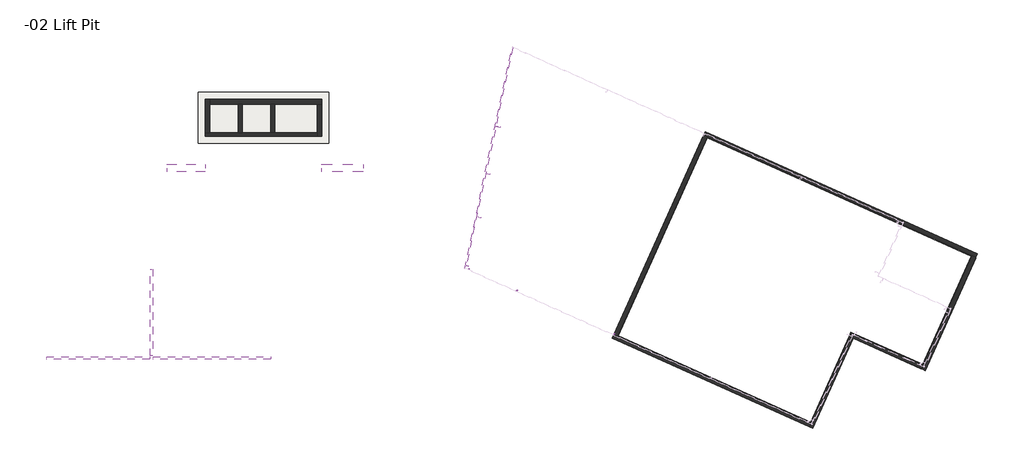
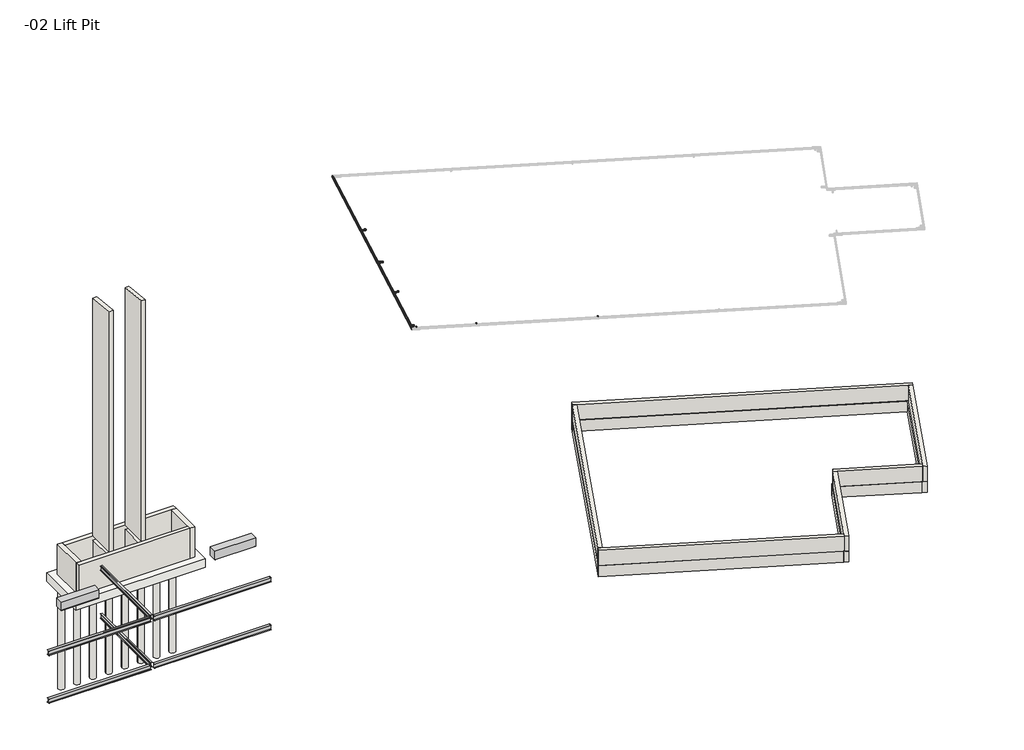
# One storey, part 1 of 3: 18 walls, 16 beams, 9 slabs.
"""IFC4 building model written with IfcOpenShell, lengths in millimetres."""

from ifc_helpers import new_model, si_unit, point, frame, frame_2d, origin, place, context, project, spatial, polyline, circle_curve, ellipse_curve, trimmed, segment, composite_curve, outline, extrude, faceted_brep, transform, mapped, element, save
from ifc_brep_helpers import plane_surface, cylinder_surface, revolved_surface, advanced_brep
from components import hss_hollow_structural_section_hss3x2x1_8_139d3190, hss_hollow_structural_section_hss3x2x1_8_24952963, hss_hollow_structural_section_hss3x2x1_8_be35bb29, hss_hollow_structural_section_hss3x2x1_8_7ccaf686, hss_hollow_structural_section_hss3x2x1_8_c5a4428d, w_shapes_w12x26_85c0d87e, w_shapes_w12x26_268029d0, w_shapes_w12x26_8135fd55

model = new_model("IFC4")

# Units and contexts
model_context = context("Model", 3, world=origin())
ifc_project = project(units=[si_unit("LENGTHUNIT", "METRE", prefix="MILLI")], contexts=[model_context])

# Site, building, storey
site = spatial("IfcSite", under=ifc_project)
building = spatial("IfcBuilding", under=site)
storey = spatial("IfcBuildingStorey", under=building, Name="-02 Lift Pit", Elevation=-2133.6)

# Beams
placement = place(None, origin())
hss_hollow_structural_section_hss3x2x1_8_shape = hss_hollow_structural_section_hss3x2x1_8_139d3190(model_context)
element("IfcBeam", 1, ObjectType="HSS-Hollow Structural Section : HSS3X2X1/8", at=placement, inside=storey, context=model_context, shape_type="MappedRepresentation", body=[
    mapped(hss_hollow_structural_section_hss3x2x1_8_shape, transform((28553.1839899, -10746.3611508, 16083.2409028), x_axis=(0.9777434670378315, -0.20951645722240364, 0.010980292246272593), y_axis=(0.20870511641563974, 0.9766389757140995, 0.05117113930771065), z_axis=(-0.021444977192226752, -0.04774060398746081, 0.9986295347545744))),
])
element("IfcBeam", 2, ObjectType="HSS-Hollow Structural Section : HSS3X2X1/8", at=placement, inside=storey, context=model_context, shape_type="MappedRepresentation", body=[
    mapped(hss_hollow_structural_section_hss3x2x1_8_shape, transform((29163.4667864, -7890.5329109, 16232.8724333), x_axis=(0.9777434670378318, -0.20951645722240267, 0.010980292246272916), y_axis=(0.20870511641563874, 0.9766389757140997, 0.05117113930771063), z_axis=(-0.021444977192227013, -0.04774060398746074, 0.9986295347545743))),
])
element("IfcBeam", 3, ObjectType="HSS-Hollow Structural Section : HSS3X2X1/8", at=placement, inside=storey, context=model_context, shape_type="MappedRepresentation", body=[
    mapped(hss_hollow_structural_section_hss3x2x1_8_shape, transform((29824.9886577, -4794.9305897, 16395.0669613), x_axis=(0.9777434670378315, -0.2095164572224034, 0.010980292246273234), y_axis=(0.20870511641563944, 0.9766389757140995, 0.05117113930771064), z_axis=(-0.021444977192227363, -0.04774060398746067, 0.9986295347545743))),
])
hss_hollow_structural_section_hss3x2x1_8_2_shape = hss_hollow_structural_section_hss3x2x1_8_24952963(model_context)
element("IfcBeam", 4, ObjectType="HSS-Hollow Structural Section : HSS3X2X1/8", at=placement, inside=storey, context=model_context, shape_type="MappedRepresentation", body=[
    mapped(hss_hollow_structural_section_hss3x2x1_8_2_shape, transform((31113.9933399, -15523.9075304, 15909.8368069), x_axis=(-0.40919454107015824, -0.9109449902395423, -0.05233595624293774), y_axis=(0.9121951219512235, -0.409756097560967, 0.0), z_axis=(-0.021444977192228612, -0.0477406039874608, 0.9986295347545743))),
])
hss_hollow_structural_section_hss3x2x1_8_3_shape = hss_hollow_structural_section_hss3x2x1_8_be35bb29(model_context)
element("IfcBeam", 5, ObjectType="HSS-Hollow Structural Section : HSS3X2X1/8", at=placement, inside=storey, context=model_context, shape_type="MappedRepresentation", body=[
    mapped(hss_hollow_structural_section_hss3x2x1_8_3_shape, transform((37509.7248478, -18394.5052449, 15909.9492086), x_axis=(-0.409194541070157, -0.910944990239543, -0.05233595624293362), y_axis=(0.912195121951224, -0.4097560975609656, 0.0), z_axis=(-0.021444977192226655, -0.04774060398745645, 0.9986295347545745))),
])
hss_hollow_structural_section_hss3x2x1_8_4_shape = hss_hollow_structural_section_hss3x2x1_8_7ccaf686(model_context)
element("IfcBeam", 6, ObjectType="HSS-Hollow Structural Section : HSS3X2X1/8", at=placement, inside=storey, context=model_context, shape_type="MappedRepresentation", body=[
    mapped(hss_hollow_structural_section_hss3x2x1_8_4_shape, transform((27860.6590059, -13959.5725396, 15914.7581682), x_axis=(-0.9777434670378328, 0.209516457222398, -0.010980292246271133), y_axis=(-0.20870511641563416, -0.9766389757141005, -0.05117113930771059), z_axis=(-0.021444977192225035, -0.047740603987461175, 0.9986295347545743))),
])
hss_hollow_structural_section_hss3x2x1_8_5_shape = hss_hollow_structural_section_hss3x2x1_8_c5a4428d(model_context)
element("IfcBeam", 7, ObjectType="HSS-Hollow Structural Section : HSS3X2X1/8", at=placement, inside=storey, context=model_context, shape_type="MappedRepresentation", body=[
    mapped(hss_hollow_structural_section_hss3x2x1_8_5_shape, transform((27952.9662678, -14104.0086143, 15909.8354835), x_axis=(-0.40919454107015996, -0.9109449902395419, -0.05233595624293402), y_axis=(0.9121951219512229, -0.40975609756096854, 0.0), z_axis=(-0.02144497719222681, -0.0477406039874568, 0.9986295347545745))),
])
element("IfcBeam", 8, ObjectType="HSS-Hollow Structural Section : HSS5X2X1/8", at=placement, inside=storey, context=model_context, shape_type="AdvancedBrep", body=[
    advanced_brep(
    [(30775.5166497, 477.596911, 16705.6903584), (30771.4031294, 486.233955, 16700.1140396), (27647.3085375, -14133.0173345, 15934.13627), (27653.9377637, -14129.882092, 15940.3293994), (30803.5876534, 422.2762939, 16703.6485024), (27698.6644754, -14107.262053, 15942.3712554), (30807.9539155, 414.2019015, 16697.455373), (27705.5464435, -14103.5641587, 15936.7949366), (30810.4246857, 419.7023065, 16582.3988703), (27708.0172137, -14098.0637537, 15821.7384339), (30806.3111655, 428.3393506, 16576.8225515), (27701.3879876, -14101.1989963, 15815.5453044), (30778.2401618, 483.6599677, 16578.8644074), (27656.6612758, -14123.8190353, 15813.5034485), (30773.8738996, 491.73436, 16585.0575369), (27649.7793077, -14127.5169295, 15819.0797673), (30775.5798351, 477.7375739, 16702.7479963), (30803.6508388, 422.4169568, 16700.7061404), (27698.7276609, -14107.1213901, 15939.4288933), (27654.0009491, -14129.7414291, 15937.3870374), (30773.523075, 482.0560959, 16699.9598369), (27650.6863361, -14131.3090503, 15934.2904726), (30775.9938452, 487.5565009, 16584.9033342), (27653.1571062, -14125.8086453, 15819.23397), (30778.1769763, 483.5193048, 16581.8067695), (27656.5980903, -14123.9596982, 15816.4458106), (30806.24798, 428.1986877, 16579.7649136), (27701.3248021, -14101.3396592, 15818.4876665), (30808.3047401, 423.8801657, 16582.553073), (27704.6394151, -14099.7720379, 15821.5842312), (30805.8339699, 418.3797606, 16697.6095756), (27702.168645, -14105.2724429, 15936.6407339)],
    [
        (0, 1, ellipse_curve(frame((30775.6430206, 477.8782368, 16699.8056342), z_axis=(-0.89162974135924, -0.4509318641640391, -0.04070452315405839), x_axis=(-0.45225713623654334, 0.8912807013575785, 0.0328967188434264)), 9.3749569, 5.8928)),
        (1, 2),
        (2, 3, ellipse_curve(frame((27654.0641346, -14129.6007661, 15934.4446753), z_axis=(-0.452257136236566, 0.8912807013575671, 0.03289671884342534), x_axis=(0.8916297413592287, 0.45093186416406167, 0.04070452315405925)), 7.5766843, 5.8928)),
        (3, 0),
        (4, 0),
        (3, 5),
        (5, 4),
        (6, 4, ellipse_curve(frame((30803.7140243, 422.5576197, 16697.7637783), z_axis=(-0.89162974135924, -0.4509318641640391, -0.04070452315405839), x_axis=(-0.45225713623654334, 0.8912807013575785, 0.0328967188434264)), 9.3749569, 5.8928)),
        (5, 7, ellipse_curve(frame((27698.7908464, -14106.9807271, 15936.4865312), z_axis=(-0.452257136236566, 0.8912807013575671, 0.03289671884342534), x_axis=(0.8916297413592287, 0.45093186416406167, 0.04070452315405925)), 7.5766843, 5.8928)),
        (7, 6),
        (8, 6),
        (7, 9),
        (9, 8),
        (10, 8, ellipse_curve(frame((30806.1847945, 428.0580248, 16582.7072756), z_axis=(-0.89162974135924, -0.4509318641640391, -0.04070452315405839), x_axis=(-0.45225713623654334, 0.8912807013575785, 0.0328967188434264)), 9.3749569, 5.8928)),
        (9, 11, ellipse_curve(frame((27701.2616166, -14101.4803221, 15821.4300286), z_axis=(-0.452257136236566, 0.8912807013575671, 0.03289671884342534), x_axis=(0.8916297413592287, 0.45093186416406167, 0.04070452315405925)), 7.5766843, 5.8928)),
        (11, 10),
        (12, 10),
        (11, 13),
        (13, 12),
        (14, 12, ellipse_curve(frame((30778.1137908, 483.3786418, 16584.7491316), z_axis=(-0.89162974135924, -0.4509318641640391, -0.04070452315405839), x_axis=(-0.45225713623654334, 0.8912807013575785, 0.0328967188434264)), 9.3749569, 5.8928)),
        (13, 15, ellipse_curve(frame((27656.5349048, -14124.1003611, 15819.3881726), z_axis=(-0.452257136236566, 0.8912807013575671, 0.03289671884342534), x_axis=(0.8916297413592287, 0.45093186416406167, 0.04070452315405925)), 7.5766843, 5.8928)),
        (15, 14),
        (1, 14),
        (15, 2),
        (16, 17),
        (17, 18),
        (18, 19),
        (19, 16),
        (20, 16, ellipse_curve(frame((30775.6430206, 477.8782368, 16699.8056342), z_axis=(0.89162974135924, 0.4509318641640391, 0.04070452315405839), x_axis=(0.45225713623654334, -0.8912807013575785, -0.0328967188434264)), 4.6874785, 2.9464)),
        (19, 21, ellipse_curve(frame((27654.0641346, -14129.6007661, 15934.4446753), z_axis=(0.452257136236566, -0.8912807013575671, -0.03289671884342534), x_axis=(-0.8916297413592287, -0.45093186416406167, -0.04070452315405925)), 3.7883422, 2.9464)),
        (21, 20),
        (22, 20),
        (21, 23),
        (23, 22),
        (24, 22, ellipse_curve(frame((30778.1137908, 483.3786418, 16584.7491316), z_axis=(0.89162974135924, 0.4509318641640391, 0.04070452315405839), x_axis=(0.45225713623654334, -0.8912807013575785, -0.0328967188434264)), 4.6874785, 2.9464)),
        (23, 25, ellipse_curve(frame((27656.5349048, -14124.1003611, 15819.3881726), z_axis=(0.452257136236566, -0.8912807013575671, -0.03289671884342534), x_axis=(-0.8916297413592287, -0.45093186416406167, -0.04070452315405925)), 3.7883422, 2.9464)),
        (25, 24),
        (26, 24),
        (25, 27),
        (27, 26),
        (28, 26, ellipse_curve(frame((30806.1847945, 428.0580248, 16582.7072756), z_axis=(0.89162974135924, 0.4509318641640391, 0.04070452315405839), x_axis=(0.45225713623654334, -0.8912807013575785, -0.0328967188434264)), 4.6874785, 2.9464)),
        (27, 29, ellipse_curve(frame((27701.2616166, -14101.4803221, 15821.4300286), z_axis=(0.452257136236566, -0.8912807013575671, -0.03289671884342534), x_axis=(-0.8916297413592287, -0.45093186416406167, -0.04070452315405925)), 3.7883422, 2.9464)),
        (29, 28),
        (30, 28),
        (29, 31),
        (31, 30),
        (17, 30, ellipse_curve(frame((30803.7140243, 422.5576197, 16697.7637783), z_axis=(0.89162974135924, 0.4509318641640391, 0.04070452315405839), x_axis=(0.45225713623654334, -0.8912807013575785, -0.0328967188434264)), 4.6874785, 2.9464)),
        (31, 18, ellipse_curve(frame((27698.7908464, -14106.9807271, 15936.4865312), z_axis=(0.452257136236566, -0.8912807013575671, -0.03289671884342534), x_axis=(-0.8916297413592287, -0.45093186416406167, -0.04070452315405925)), 3.7883422, 2.9464)),
    ],
    [
        cylinder_surface(frame((30770.6054851, 454.3050077, 16698.5705115), z_axis=(0.2087051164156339, 0.9766389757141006, 0.05117113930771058), x_axis=(0.9777434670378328, -0.20951645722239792, 0.010980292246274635)), 5.8928),
        plane_surface(frame((30770.4791142, 454.0236819, 16704.4552356), z_axis=(-0.02144497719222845, -0.04774060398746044, 0.9986295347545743), x_axis=(-0.2087051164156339, -0.9766389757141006, -0.05117113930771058))),
        cylinder_surface(frame((30808.7515598, 446.1308488, 16698.998901), z_axis=(0.2087051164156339, 0.9766389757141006, 0.05117113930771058), x_axis=(0.9777434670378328, -0.20951645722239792, 0.010980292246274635)), 5.8928),
        plane_surface(frame((30814.5132065, 444.8962102, 16699.0636057), z_axis=(0.9777434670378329, -0.20951645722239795, 0.010980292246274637), x_axis=(-0.2087051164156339, -0.9766389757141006, -0.05117113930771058))),
        cylinder_surface(frame((30811.22233, 451.6312539, 16583.9423984), z_axis=(0.2087051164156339, 0.9766389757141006, 0.05117113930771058), x_axis=(0.9777434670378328, -0.20951645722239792, 0.010980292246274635)), 5.8928),
        plane_surface(frame((30811.348701, 451.9125797, 16578.0576742), z_axis=(0.02144497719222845, 0.04774060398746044, -0.9986295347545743), x_axis=(-0.2087051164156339, -0.9766389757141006, -0.05117113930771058))),
        cylinder_surface(frame((30773.0762553, 459.8054127, 16583.5140088), z_axis=(0.2087051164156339, 0.9766389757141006, 0.05117113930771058), x_axis=(0.9777434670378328, -0.20951645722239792, 0.010980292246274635)), 5.8928),
        plane_surface(frame((30767.3146086, 461.0400513, 16583.4493042), z_axis=(-0.9777434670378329, 0.20951645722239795, -0.010980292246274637), x_axis=(-0.2087051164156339, -0.9766389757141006, -0.05117113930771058))),
        plane_surface(frame((30808.6883744, 445.9901859, 16701.9412631), z_axis=(0.02144497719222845, 0.04774060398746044, -0.9986295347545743), x_axis=(-0.2087051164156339, -0.9766389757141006, -0.05117113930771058))),
        revolved_surface(polyline([(27656.44798275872, -14132.54368889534, 15934.355177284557), (30779.284721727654, 480.82145733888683, 16700.024541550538)]), (30770.6054851, 454.3050077, 16698.5705115), (-0.2087051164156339, -0.9766389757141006, -0.05117113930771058)),
        plane_surface(frame((30767.7246618, 454.922327, 16698.5381592), z_axis=(0.9777434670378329, -0.20951645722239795, 0.010980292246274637), x_axis=(-0.2087051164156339, -0.9766389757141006, -0.05117113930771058))),
        revolved_surface(polyline([(27658.91875295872, -14127.04328389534, 15819.29867458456), (30781.75549192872, 486.3218623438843, 16584.968038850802)]), (30773.0762553, 459.8054127, 16583.5140088), (-0.2087051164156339, -0.9766389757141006, -0.05117113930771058)),
        plane_surface(frame((30773.1394408, 459.9460756, 16580.5716468), z_axis=(-0.02144497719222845, -0.04774060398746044, 0.9986295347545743), x_axis=(-0.2087051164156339, -0.9766389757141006, -0.05117113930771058))),
        revolved_surface(polyline([(27703.64546471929, -14104.423244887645, 15821.340530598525), (30809.826495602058, 431.00124534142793, 16582.92618300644)]), (30811.22233, 451.6312539, 16583.9423984), (-0.2087051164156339, -0.9766389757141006, -0.05117113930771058)),
        plane_surface(frame((30814.1031534, 451.0139346, 16583.9747507), z_axis=(-0.9777434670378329, 0.20951645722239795, -0.010980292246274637), x_axis=(-0.2087051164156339, -0.9766389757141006, -0.05117113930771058))),
        revolved_surface(polyline([(27701.174694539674, -14109.923649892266, 15936.397033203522), (30807.355725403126, 425.5008402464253, 16697.9826856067)]), (30808.7515598, 446.1308488, 16698.998901), (-0.2087051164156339, -0.9766389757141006, -0.05117113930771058)),
        plane_surface(frame((27703.7859653, -14107.4833186, 16018.7752312), z_axis=(0.4522571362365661, -0.8912807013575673, -0.03289671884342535), x_axis=(0.8918875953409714, 0.45194939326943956, 0.016681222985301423))),
        plane_surface(frame((30806.1934373, 410.2827416, 16779.4356677), z_axis=(0.8916297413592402, 0.4509318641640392, 0.0407045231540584), x_axis=(0.4527652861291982, -0.8880191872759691, -0.08015933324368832))),
    ],
    [
        (0, [[1, 2, 3, 4]]),
        (1, [[5, -4, 6, 7]]),
        (2, [[8, -7, 9, 10]]),
        (3, [[11, -10, 12, 13]]),
        (4, [[14, -13, 15, 16]]),
        (5, [[17, -16, 18, 19]]),
        (6, [[20, -19, 21, 22]]),
        (7, [[23, -22, 24, -2]]),
        (8, [[25, 26, 27, 28]]),
        (9, [[29, -28, 30, 31]]),
        (10, [[32, -31, 33, 34]]),
        (11, [[35, -34, 36, 37]]),
        (12, [[38, -37, 39, 40]]),
        (13, [[41, -40, 42, 43]]),
        (14, [[44, -43, 45, 46]]),
        (15, [[47, -46, 48, -26]]),
        (16, [[-24, -21, -18, -15, -12, -9, -6, -3], [-48, -45, -42, -39, -36, -33, -30, -27]]),
        (17, [[-1, -5, -8, -11, -14, -17, -20, -23], [-25, -29, -32, -35, -38, -41, -44, -47]]),
    ],
),
])
element("IfcBeam", 9, ObjectType="Ring Beam : 12 x 24", at=placement, inside=storey, context=model_context, shape_type="SweptSolid", body=[
    extrude(outline(polyline([(-7759.7, -304.8), (-7251.7, -304.8), (-7251.7, -889.0), (-7277.1, -914.4), (-7734.3, -914.4), (-7759.7, -889.0), (-7759.7, -304.8)])), frame((18249.9, 0.0, 0.0), z_axis=(1.0, 0.0, 0.0), x_axis=(0.0, 1.0, 0.0)), (0.0, 0.0, 1.0), 2717.8),
])
element("IfcBeam", 10, ObjectType="Ring Beam : 12 x 24", at=placement, inside=storey, context=model_context, shape_type="SweptSolid", body=[
    extrude(outline(polyline([(-7759.7, -889.0), (-7759.7, -304.8), (-7251.7, -304.8), (-7251.7, -889.0), (-7277.1, -914.4), (-7734.3, -914.4), (-7759.7, -889.0)])), frame((8051.8, 0.0, 0.0), z_axis=(1.0, 0.0, 0.0), x_axis=(0.0, 1.0, 0.0)), (0.0, 0.0, 1.0), 2501.9),
])
w_shapes_w12x26_shape = w_shapes_w12x26_85c0d87e(model_context)
element("IfcBeam", 11, ObjectType="W Shapes : W12X26", at=placement, inside=storey, context=model_context, shape_type="MappedRepresentation", body=[
    mapped(w_shapes_w12x26_shape, transform((11004.55, -20002.5, 2994.66), x_axis=(-1.0, 0.0, 0.0), y_axis=(0.0, -1.0, 0.0), z_axis=(0.0, 0.0, 1.0))),
])
element("IfcBeam", 12, ObjectType="W Shapes : W12X26", at=placement, inside=storey, context=model_context, shape_type="MappedRepresentation", body=[
    mapped(w_shapes_w12x26_shape, transform((11004.55, -20002.5, 6347.46), x_axis=(-1.0, 0.0, 0.0), y_axis=(0.0, -1.0, 0.0), z_axis=(0.0, 0.0, 1.0))),
])
w_shapes_w12x26_2_shape = w_shapes_w12x26_268029d0(model_context)
element("IfcBeam", 13, ObjectType="W Shapes : W12X26", at=placement, inside=storey, context=model_context, shape_type="MappedRepresentation", body=[
    mapped(w_shapes_w12x26_2_shape, transform((7010.4, -16998.95, 2994.66), x_axis=(0.0, 1.0, 0.0), y_axis=(-1.0, 0.0, 0.0), z_axis=(0.0, 0.0, 1.0))),
])
element("IfcBeam", 14, ObjectType="W Shapes : W12X26", at=placement, inside=storey, context=model_context, shape_type="MappedRepresentation", body=[
    mapped(w_shapes_w12x26_2_shape, transform((7010.4, -16998.95, 6347.46), x_axis=(0.0, 1.0, 0.0), y_axis=(-1.0, 0.0, 0.0), z_axis=(0.0, 0.0, 1.0))),
])
w_shapes_w12x26_3_shape = w_shapes_w12x26_8135fd55(model_context)
element("IfcBeam", 15, ObjectType="W Shapes : W12X26", at=placement, inside=storey, context=model_context, shape_type="MappedRepresentation", body=[
    mapped(w_shapes_w12x26_3_shape, transform((3505.2, -20002.5, 2994.66), x_axis=(-1.0, 0.0, 0.0), y_axis=(0.0, -1.0, 0.0), z_axis=(0.0, 0.0, 1.0))),
])
element("IfcBeam", 16, ObjectType="W Shapes : W12X26", at=placement, inside=storey, context=model_context, shape_type="MappedRepresentation", body=[
    mapped(w_shapes_w12x26_3_shape, transform((3505.2, -20002.5, 6347.46), x_axis=(-1.0, 0.0, 0.0), y_axis=(0.0, -1.0, 0.0), z_axis=(0.0, 0.0, 1.0))),
])

# Slabs
element("IfcSlab", 17, ObjectType="24\" Foundation Slab", at=placement, inside=storey, context=model_context, shape_type="SweptSolid", body=[
    extrude(outline(polyline([(10096.5, -5880.1), (10096.5, -2527.3), (18707.1, -2527.3), (18707.1, -5880.1), (10096.5, -5880.1)])), frame((0.0, 0.0, -2743.2), z_axis=(0.0, 0.0, 1.0), x_axis=(1.0, 0.0, 0.0)), (0.0, 0.0, 1.0), 609.6),
])
element("IfcSlab", 18, ObjectType="Round In Situ Concrete Pile : 16\" Diameter 24'", at=placement, inside=storey, context=model_context, shape_type="SweptSolid", body=[
    extrude(outline(composite_curve([segment(trimmed(circle_curve(frame_2d((10706.1, -3136.9)), 203.2), [point((10502.9, -3136.9))], [point((10909.3, -3136.9))], False, "CARTESIAN"), True, "CONTINUOUS"), segment(trimmed(circle_curve(frame_2d((10706.1, -3136.9)), 203.2), [point((10909.3, -3136.9))], [point((10502.9, -3136.9))], False, "CARTESIAN"), True, "CONTINUOUS")], self_intersect=False)), frame((0.0, 0.0, -10058.4), z_axis=(0.0, 0.0, 1.0), x_axis=(1.0, 0.0, 0.0)), (0.0, 0.0, 1.0), 7315.2),
])
element("IfcSlab", 19, ObjectType="Round In Situ Concrete Pile : 16\" Diameter 24'", at=placement, inside=storey, context=model_context, shape_type="SweptSolid", body=[
    extrude(outline(composite_curve([segment(trimmed(circle_curve(frame_2d((11762.0142857, -3136.9)), 203.2), [point((11558.8142857, -3136.9))], [point((11965.2142857, -3136.9))], False, "CARTESIAN"), True, "CONTINUOUS"), segment(trimmed(circle_curve(frame_2d((11762.0142857, -3136.9)), 203.2), [point((11965.2142857, -3136.9))], [point((11558.8142857, -3136.9))], False, "CARTESIAN"), True, "CONTINUOUS")], self_intersect=False)), frame((0.0, 0.0, -10058.4), z_axis=(0.0, 0.0, 1.0), x_axis=(1.0, 0.0, 0.0)), (0.0, 0.0, 1.0), 7315.2),
])
element("IfcSlab", 20, ObjectType="Round In Situ Concrete Pile : 16\" Diameter 24'", at=placement, inside=storey, context=model_context, shape_type="SweptSolid", body=[
    extrude(outline(composite_curve([segment(trimmed(circle_curve(frame_2d((12817.9285714, -3136.9)), 203.2), [point((12614.7285714, -3136.9))], [point((13021.1285714, -3136.9))], False, "CARTESIAN"), True, "CONTINUOUS"), segment(trimmed(circle_curve(frame_2d((12817.9285714, -3136.9)), 203.2), [point((13021.1285714, -3136.9))], [point((12614.7285714, -3136.9))], False, "CARTESIAN"), True, "CONTINUOUS")], self_intersect=False)), frame((0.0, 0.0, -10058.4), z_axis=(0.0, 0.0, 1.0), x_axis=(1.0, 0.0, 0.0)), (0.0, 0.0, 1.0), 7315.2),
])
element("IfcSlab", 21, ObjectType="Round In Situ Concrete Pile : 16\" Diameter 24'", at=placement, inside=storey, context=model_context, shape_type="SweptSolid", body=[
    extrude(outline(composite_curve([segment(trimmed(circle_curve(frame_2d((13873.8428571, -3136.9)), 203.2), [point((13670.6428571, -3136.9))], [point((14077.0428571, -3136.9))], False, "CARTESIAN"), True, "CONTINUOUS"), segment(trimmed(circle_curve(frame_2d((13873.8428571, -3136.9)), 203.2), [point((14077.0428571, -3136.9))], [point((13670.6428571, -3136.9))], False, "CARTESIAN"), True, "CONTINUOUS")], self_intersect=False)), frame((0.0, 0.0, -10058.4), z_axis=(0.0, 0.0, 1.0), x_axis=(1.0, 0.0, 0.0)), (0.0, 0.0, 1.0), 7315.2),
])
element("IfcSlab", 22, ObjectType="Round In Situ Concrete Pile : 16\" Diameter 24'", at=placement, inside=storey, context=model_context, shape_type="SweptSolid", body=[
    extrude(outline(composite_curve([segment(trimmed(circle_curve(frame_2d((14929.7571429, -3136.9)), 203.2), [point((14726.5571429, -3136.9))], [point((15132.9571429, -3136.9))], False, "CARTESIAN"), True, "CONTINUOUS"), segment(trimmed(circle_curve(frame_2d((14929.7571429, -3136.9)), 203.2), [point((15132.9571429, -3136.9))], [point((14726.5571429, -3136.9))], False, "CARTESIAN"), True, "CONTINUOUS")], self_intersect=False)), frame((0.0, 0.0, -10058.4), z_axis=(0.0, 0.0, 1.0), x_axis=(1.0, 0.0, 0.0)), (0.0, 0.0, 1.0), 7315.2),
])
element("IfcSlab", 23, ObjectType="Round In Situ Concrete Pile : 16\" Diameter 24'", at=placement, inside=storey, context=model_context, shape_type="SweptSolid", body=[
    extrude(outline(composite_curve([segment(trimmed(circle_curve(frame_2d((15985.6714286, -3136.9)), 203.2), [point((15782.4714286, -3136.9))], [point((16188.8714286, -3136.9))], False, "CARTESIAN"), True, "CONTINUOUS"), segment(trimmed(circle_curve(frame_2d((15985.6714286, -3136.9)), 203.2), [point((16188.8714286, -3136.9))], [point((15782.4714286, -3136.9))], False, "CARTESIAN"), True, "CONTINUOUS")], self_intersect=False)), frame((0.0, 0.0, -10058.4), z_axis=(0.0, 0.0, 1.0), x_axis=(1.0, 0.0, 0.0)), (0.0, 0.0, 1.0), 7315.2),
])
element("IfcSlab", 24, ObjectType="Round In Situ Concrete Pile : 16\" Diameter 24'", at=placement, inside=storey, context=model_context, shape_type="SweptSolid", body=[
    extrude(outline(composite_curve([segment(trimmed(circle_curve(frame_2d((17041.5857143, -3136.9)), 203.2), [point((16838.3857143, -3136.9))], [point((17244.7857143, -3136.9))], False, "CARTESIAN"), True, "CONTINUOUS"), segment(trimmed(circle_curve(frame_2d((17041.5857143, -3136.9)), 203.2), [point((17244.7857143, -3136.9))], [point((16838.3857143, -3136.9))], False, "CARTESIAN"), True, "CONTINUOUS")], self_intersect=False)), frame((0.0, 0.0, -10058.4), z_axis=(0.0, 0.0, 1.0), x_axis=(1.0, 0.0, 0.0)), (0.0, 0.0, 1.0), 7315.2),
])
element("IfcSlab", 25, ObjectType="Round In Situ Concrete Pile : 16\" Diameter 24'", at=placement, inside=storey, context=model_context, shape_type="SweptSolid", body=[
    extrude(outline(composite_curve([segment(trimmed(circle_curve(frame_2d((18097.5, -3136.9)), 203.2), [point((17894.3, -3136.9))], [point((18300.7, -3136.9))], False, "CARTESIAN"), True, "CONTINUOUS"), segment(trimmed(circle_curve(frame_2d((18097.5, -3136.9)), 203.2), [point((18300.7, -3136.9))], [point((17894.3, -3136.9))], False, "CARTESIAN"), True, "CONTINUOUS")], self_intersect=False)), frame((0.0, 0.0, -10058.4), z_axis=(0.0, 0.0, 1.0), x_axis=(1.0, 0.0, 0.0)), (0.0, 0.0, 1.0), 7315.2),
])

# Walls
element("IfcWall", 26, ObjectType="RC Wall 10\"", at=placement, inside=storey, context=model_context, shape_type="SweptSolid", body=[
    extrude(outline(polyline([(12992.1, -3289.3), (12992.1, -5168.9), (12738.1, -5168.9), (12738.1, -3289.3), (12992.1, -3289.3)])), frame((0.0, 0.0, -2133.6), z_axis=(0.0, 0.0, 1.0), x_axis=(1.0, 0.0, 0.0)), (0.0, 0.0, 1.0), 1828.8),
    extrude(outline(polyline([(-5168.9, 16872.3860006), (-3289.3, 16674.83208), (-3289.3, 0.0), (-5168.9, 0.0), (-5168.9, 16872.3860006)])), frame((12738.1, 0.0, 0.0), z_axis=(1.0, 0.0, 0.0), x_axis=(0.0, 1.0, 0.0)), (0.0, 0.0, 1.0), 254.0),
])
element("IfcWall", 27, ObjectType="RC Wall 10\"", at=placement, inside=storey, context=model_context, shape_type="SweptSolid", body=[
    extrude(outline(polyline([(15125.7, -3289.3), (15125.7, -5168.9), (14871.7, -5168.9), (14871.7, -3289.3), (15125.7, -3289.3)])), frame((0.0, 0.0, -2133.6), z_axis=(0.0, 0.0, 1.0), x_axis=(1.0, 0.0, 0.0)), (0.0, 0.0, 1.0), 1828.8),
    extrude(outline(polyline([(-5168.9, 16872.3860006), (-3289.3, 16674.83208), (-3289.3, 0.0), (-5168.9, 0.0), (-5168.9, 16872.3860006)])), frame((14871.7, 0.0, 0.0), z_axis=(1.0, 0.0, 0.0), x_axis=(0.0, 1.0, 0.0)), (0.0, 0.0, 1.0), 254.0),
])
element("IfcWall", 28, ObjectType="RC Wall 10\"", at=placement, inside=storey, context=model_context, shape_type="Brep", body=[
    faceted_brep([(10553.7, -5422.9, -2133.6), (17945.1, -5422.9, -2133.6), (17945.1, -5422.9, 0.0), (10553.7, -5422.9, 0.0), (10553.7, -5422.9, -304.8), (10553.7, -5422.9, -914.4), (10553.7, -5168.9, -2133.6), (10553.7, -5168.9, 0.0), (10858.5, -5168.9, 0.0), (17945.1, -5168.9, 0.0), (17945.1, -5168.9, -304.8), (17945.1, -5168.9, -2133.6), (15125.7, -5168.9, -2133.6), (14871.7, -5168.9, -2133.6), (12992.1, -5168.9, -2133.6), (12738.1, -5168.9, -2133.6), (10858.5, -5168.9, -2133.6)], [[[0, 1, 2, 3, 4, 5]], [[6, 7, 8, 9, 10, 11, 12, 13, 14, 15, 16]], [[1, 0, 6, 16, 15, 14, 13, 12, 11]], [[3, 2, 9, 8, 7]], [[0, 5, 4, 3, 7, 6]], [[2, 1, 11, 10, 9]]]),
])
element("IfcWall", 29, ObjectType="RC Wall 10\"", at=placement, inside=storey, context=model_context, shape_type="Brep", body=[
    faceted_brep([(43375.5853595, -5335.982439, -1371.6), (43607.2829205, -5440.0604878, -1371.6), (61077.2790181, -13287.5453659, -1371.6), (61308.976579, -13391.6234146, -1371.6), (61308.976579, -13391.6234146, -304.8), (61077.2790181, -13287.5453659, -304.8), (43607.2829205, -5440.0604878, -304.8), (43375.5853595, -5335.982439, -304.8), (43479.6634083, -5104.284878, -1371.6), (43479.6634083, -5104.284878, -1193.8), (43479.6634083, -5104.284878, -304.8), (61413.0546278, -13159.9258537, -304.8), (61413.0546278, -13159.9258537, -1371.6)], [[[0, 1, 2, 3, 4, 5, 6, 7]], [[8, 9, 10, 11, 12]], [[3, 2, 1, 0, 8, 12]], [[7, 6, 5, 4, 11, 10]], [[4, 3, 12, 11]], [[0, 7, 10, 9, 8]]]),
])
element("IfcWall", 30, ObjectType="RC Wall 10\"", at=placement, inside=storey, context=model_context, shape_type="Brep", body=[
    faceted_brep([(61077.2790181, -13287.5453659, -1371.6), (57835.2477985, -20504.9243902, -1371.6), (57731.1697498, -20736.6219512, -1371.6), (57731.1697498, -20736.6219512, -304.8), (57835.2477985, -20504.9243902, -304.8), (61077.2790181, -13287.5453659, -304.8), (61308.976579, -13391.6234146, -1371.6), (61308.976579, -13391.6234146, -304.8), (57962.8673107, -20840.7, -304.8), (57962.8673107, -20840.7, -1371.6), (61288.1609693, -13437.9629268, -1371.6)], [[[0, 1, 2, 3, 4, 5]], [[6, 7, 8, 9, 10]], [[2, 1, 0, 6, 10, 9]], [[5, 4, 3, 8, 7]], [[0, 5, 7, 6]], [[3, 2, 9, 8]]]),
])
element("IfcWall", 31, ObjectType="RC Wall 10\"", at=placement, inside=storey, context=model_context, shape_type="Brep", body=[
    faceted_brep([(57835.2477985, -20504.9243902, -1371.6), (53108.6175546, -18381.7321951, -1371.6), (53108.6175546, -18381.7321951, -304.8), (57835.2477985, -20504.9243902, -304.8), (57731.1697498, -20736.6219512, -1371.6), (57731.1697498, -20736.6219512, -304.8), (53236.2370668, -18717.5078049, -304.8), (53004.5395059, -18613.4297561, -304.8), (53004.5395059, -18613.4297561, -1371.6), (53236.2370668, -18717.5078049, -1371.6), (57684.8302376, -20715.8063415, -1371.6)], [[[0, 1, 2, 3]], [[4, 5, 6, 7, 8, 9, 10]], [[1, 0, 4, 10, 9, 8]], [[3, 2, 7, 6, 5]], [[0, 3, 5, 4]], [[2, 1, 8, 7]]]),
])
element("IfcWall", 32, ObjectType="RC Wall 10\"", at=placement, inside=storey, context=model_context, shape_type="Brep", body=[
    faceted_brep([(53004.5395059, -18613.4297561, -1371.6), (50449.4234083, -24301.604878, -1371.6), (50345.3453595, -24533.302439, -1371.6), (50345.3453595, -24533.302439, -304.8), (50449.4234083, -24301.604878, -304.8), (53004.5395059, -18613.4297561, -304.8), (53236.2370668, -18717.5078049, -1371.6), (53236.2370668, -18717.5078049, -304.8), (50577.0429205, -24637.3804878, -304.8), (50577.0429205, -24637.3804878, -1371.6)], [[[0, 1, 2, 3, 4, 5]], [[6, 7, 8, 9]], [[2, 1, 0, 6, 9]], [[5, 4, 3, 8, 7]], [[0, 5, 7, 6]], [[3, 2, 9, 8]]]),
])
element("IfcWall", 33, ObjectType="RC Wall 10\"", at=placement, inside=storey, context=model_context, shape_type="Brep", body=[
    faceted_brep([(50449.4234083, -24301.604878, -1371.6), (37706.0575546, -18577.3121951, -1371.6), (37474.3599937, -18473.2341463, -1371.6), (37474.3599937, -18473.2341463, -304.8), (37706.0575546, -18577.3121951, -304.8), (50449.4234083, -24301.604878, -304.8), (50345.3453595, -24533.302439, -1371.6), (50345.3453595, -24533.302439, -304.8), (37370.2819449, -18704.9317073, -304.8), (37370.2819449, -18704.9317073, -1193.8), (37370.2819449, -18704.9317073, -1371.6), (50299.0058473, -24512.4868293, -1371.6)], [[[0, 1, 2, 3, 4, 5]], [[6, 7, 8, 9, 10, 11]], [[2, 1, 0, 6, 11, 10]], [[5, 4, 3, 8, 7]], [[0, 5, 7, 6]], [[3, 2, 10, 9, 8]]]),
])
element("IfcWall", 34, ObjectType="RC Wall 10\"", at=placement, inside=storey, context=model_context, shape_type="Brep", body=[
    faceted_brep([(37706.0575546, -18577.3121951, -1371.6), (43607.2829205, -5440.0604878, -1371.6), (43607.2829205, -5440.0604878, -304.8), (37706.0575546, -18577.3121951, -304.8), (37474.3599937, -18473.2341463, -1371.6), (37474.3599937, -18473.2341463, -304.8), (43375.5853595, -5335.982439, -304.8), (43375.5853595, -5335.982439, -1371.6), (43354.7697498, -5382.3219512, -1371.6), (37495.1756034, -18426.8946341, -1371.6)], [[[0, 1, 2, 3]], [[4, 5, 6, 7, 8, 9]], [[1, 0, 4, 9, 8, 7]], [[3, 2, 6, 5]], [[2, 1, 7, 6]], [[0, 3, 5, 4]]]),
])
element("IfcWall", 35, ObjectType="RC Wall 12\"", at=placement, inside=storey, context=model_context, shape_type="Brep", body=[
    faceted_brep([(10553.7, -2984.5, -2133.6), (10553.7, -5168.9, -2133.6), (10553.7, -5168.9, 0.0), (10553.7, -2984.5, 0.0), (10553.7, -2984.5, -304.8), (10858.5, -2984.5, -2133.6), (10858.5, -2984.5, 0.0), (10858.5, -3289.3, 0.0), (10858.5, -5168.9, 0.0), (10858.5, -5168.9, -304.8), (10858.5, -5168.9, -2133.6), (10858.5, -3289.3, -2133.6)], [[[0, 1, 2, 3, 4]], [[5, 6, 7, 8, 9, 10, 11]], [[1, 0, 5, 11, 10]], [[3, 2, 8, 7, 6]], [[0, 4, 3, 6, 5]], [[2, 1, 10, 9, 8]]]),
])
element("IfcWall", 36, ObjectType="RC Wall 12\"", at=placement, inside=storey, context=model_context, shape_type="Brep", body=[
    faceted_brep([(18249.9, -2984.5, -2133.6), (10858.5, -2984.5, -2133.6), (10858.5, -2984.5, 0.0), (18249.9, -2984.5, 0.0), (18249.9, -2984.5, -304.8), (18249.9, -3289.3, -2133.6), (18249.9, -3289.3, 0.0), (17945.1, -3289.3, 0.0), (10858.5, -3289.3, 0.0), (10858.5, -3289.3, -304.8), (10858.5, -3289.3, -2133.6), (12738.1, -3289.3, -2133.6), (12992.1, -3289.3, -2133.6), (14871.7, -3289.3, -2133.6), (15125.7, -3289.3, -2133.6), (17945.1, -3289.3, -2133.6)], [[[0, 1, 2, 3, 4]], [[5, 6, 7, 8, 9, 10, 11, 12, 13, 14, 15]], [[1, 0, 5, 15, 14, 13, 12, 11, 10]], [[3, 2, 8, 7, 6]], [[0, 4, 3, 6, 5]], [[2, 1, 10, 9, 8]]]),
])
element("IfcWall", 37, ObjectType="RC Wall 12\"", at=placement, inside=storey, context=model_context, shape_type="Brep", body=[
    faceted_brep([(18249.9, -5422.9, -2133.6), (18249.9, -3289.3, -2133.6), (18249.9, -3289.3, 0.0), (18249.9, -5422.9, 0.0), (18249.9, -5422.9, -304.8), (17945.1, -5422.9, -2133.6), (17945.1, -5422.9, 0.0), (17945.1, -5168.9, 0.0), (17945.1, -3289.3, 0.0), (17945.1, -3289.3, -304.8), (17945.1, -3289.3, -2133.6), (17945.1, -5168.9, -2133.6)], [[[0, 1, 2, 3, 4]], [[5, 6, 7, 8, 9, 10, 11]], [[1, 0, 5, 11, 10]], [[3, 2, 8, 7, 6]], [[0, 4, 3, 6, 5]], [[2, 1, 10, 9, 8]]]),
])
element("IfcWall", 38, ObjectType="RC Wall 12\"", at=placement, inside=storey, context=model_context, shape_type="Brep", body=[
    faceted_brep([(43354.7697498, -5382.3219512, -2133.6), (43632.8068229, -5507.2156098, -2133.6), (61010.1238961, -13313.0692683, -2133.6), (61288.1609693, -13437.9629268, -2133.6), (61288.1609693, -13437.9629268, -1371.6), (61010.1238961, -13313.0692683, -1371.6), (43632.8068229, -5507.2156098, -1371.6), (43354.7697498, -5382.3219512, -1371.6), (43479.6634083, -5104.284878, -2133.6), (43479.6634083, -5104.284878, -1371.6), (61413.0546278, -13159.9258537, -1371.6), (61413.0546278, -13159.9258537, -2133.6), (61308.976579, -13391.6234146, -1371.6), (43375.5853595, -5335.982439, -1371.6)], [[[0, 1, 2, 3, 4, 5, 6, 7]], [[8, 9, 10, 11]], [[3, 2, 1, 0, 8, 11]], [[7, 6, 5, 4, 12, 10, 9, 13]], [[4, 3, 11, 10, 12]], [[0, 7, 13, 9, 8]]]),
])
element("IfcWall", 39, ObjectType="RC Wall 12\"", at=placement, inside=storey, context=model_context, shape_type="Brep", body=[
    faceted_brep([(61010.1238961, -13313.0692683, -2133.6), (57809.7238961, -20437.7692683, -2133.6), (57684.8302376, -20715.8063415, -2133.6), (57684.8302376, -20715.8063415, -1371.6), (57809.7238961, -20437.7692683, -1371.6), (61010.1238961, -13313.0692683, -1371.6), (61288.1609693, -13437.9629268, -2133.6), (61288.1609693, -13437.9629268, -1371.6), (57962.8673107, -20840.7, -1371.6), (57962.8673107, -20840.7, -2133.6), (57731.1697498, -20736.6219512, -1371.6)], [[[0, 1, 2, 3, 4, 5]], [[6, 7, 8, 9]], [[2, 1, 0, 6, 9]], [[5, 4, 3, 10, 8, 7]], [[0, 5, 7, 6]], [[3, 2, 9, 8, 10]]]),
])
element("IfcWall", 40, ObjectType="RC Wall 12\"", at=placement, inside=storey, context=model_context, shape_type="Brep", body=[
    faceted_brep([(57809.7238961, -20437.7692683, -2133.6), (53083.0936522, -18314.5770732, -2133.6), (53083.0936522, -18314.5770732, -1371.6), (57809.7238961, -20437.7692683, -1371.6), (57684.8302376, -20715.8063415, -2133.6), (57684.8302376, -20715.8063415, -1371.6), (53236.2370668, -18717.5078049, -1371.6), (53004.5395059, -18613.4297561, -1371.6), (52958.1999937, -18592.6141463, -1371.6), (52958.1999937, -18592.6141463, -2133.6), (53236.2370668, -18717.5078049, -2133.6)], [[[0, 1, 2, 3]], [[4, 5, 6, 7, 8, 9, 10]], [[1, 0, 4, 10, 9]], [[3, 2, 8, 7, 6, 5]], [[0, 3, 5, 4]], [[2, 1, 9, 8]]]),
])
element("IfcWall", 41, ObjectType="RC Wall 12\"", at=placement, inside=storey, context=model_context, shape_type="Brep", body=[
    faceted_brep([(52958.1999937, -18592.6141463, -2133.6), (50423.8995059, -24234.4497561, -2133.6), (50299.0058473, -24512.4868293, -2133.6), (50299.0058473, -24512.4868293, -1371.6), (50423.8995059, -24234.4497561, -1371.6), (52958.1999937, -18592.6141463, -1371.6), (53236.2370668, -18717.5078049, -2133.6), (53236.2370668, -18717.5078049, -1371.6), (50577.0429205, -24637.3804878, -1371.6), (50577.0429205, -24637.3804878, -2133.6), (50345.3453595, -24533.302439, -1371.6), (53004.5395059, -18613.4297561, -1371.6)], [[[0, 1, 2, 3, 4, 5]], [[6, 7, 8, 9]], [[2, 1, 0, 6, 9]], [[5, 4, 3, 10, 8, 7, 11]], [[0, 5, 11, 7, 6]], [[3, 2, 9, 8, 10]]]),
])
element("IfcWall", 42, ObjectType="RC Wall 12\"", at=placement, inside=storey, context=model_context, shape_type="Brep", body=[
    faceted_brep([(50423.8995059, -24234.4497561, -2133.6), (37773.2126766, -18551.7882927, -2133.6), (37495.1756034, -18426.8946341, -2133.6), (37495.1756034, -18426.8946341, -1371.6), (37773.2126766, -18551.7882927, -1371.6), (50423.8995059, -24234.4497561, -1371.6), (50299.0058473, -24512.4868293, -2133.6), (50299.0058473, -24512.4868293, -1371.6), (37370.2819449, -18704.9317073, -1371.6), (37370.2819449, -18704.9317073, -2133.6), (37474.3599937, -18473.2341463, -1371.6)], [[[0, 1, 2, 3, 4, 5]], [[6, 7, 8, 9]], [[2, 1, 0, 6, 9]], [[5, 4, 3, 10, 8, 7]], [[0, 5, 7, 6]], [[3, 2, 9, 8, 10]]]),
])
element("IfcWall", 43, ObjectType="RC Wall 12\"", at=placement, inside=storey, context=model_context, shape_type="SweptSolid", body=[
    extrude(outline(polyline([(43632.8068229, -5507.2156098), (37773.2126766, -18551.7882927), (37495.1756034, -18426.8946341), (43354.7697498, -5382.3219512), (43632.8068229, -5507.2156098)])), frame((0.0, 0.0, -2133.6), z_axis=(0.0, 0.0, 1.0), x_axis=(1.0, 0.0, 0.0)), (0.0, 0.0, 1.0), 762.0),
])

save(model, "model.ifc")
